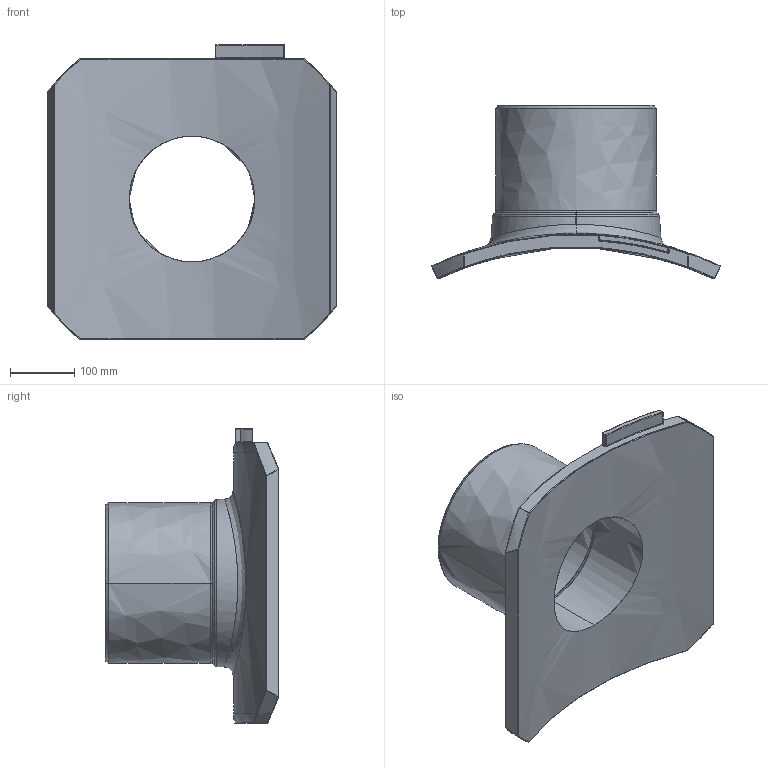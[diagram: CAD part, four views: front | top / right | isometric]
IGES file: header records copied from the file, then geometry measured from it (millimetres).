
Start section:  PTC IGES file: sa-uni_d1000_250-01.igs
Global section: file name: sa-uni_d1000_250-01.igs; native system: Creo Parametric by PTC Inc.; preprocessor: 2022124; author: mikulicp; organization: Unknown; date: 20240701.105825; units: millimetre
Bounding box: 449.67 x 270.58 x 460 mm (x, y, z)
Surface area: 666514.2 mm2 (no closed solid volume)
Topology: 0 solids, 0 shells, 235 faces, 1138 edges, 1138 vertices
Faces by surface type: bspline 235
